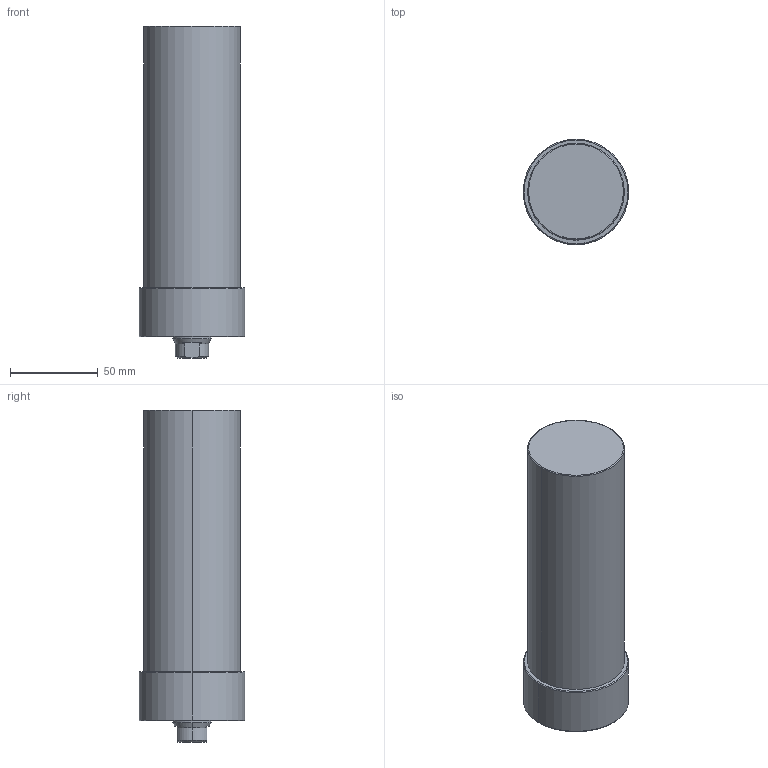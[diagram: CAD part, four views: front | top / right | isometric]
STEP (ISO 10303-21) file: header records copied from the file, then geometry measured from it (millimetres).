
FILE_DESCRIPTION (( 'STEP AP203' ), '1' );
FILE_NAME ('CLLU-055GA-120.STEP', '2020-01-06T07:08:40', ( '' ), ( '' ), 'SwSTEP 2.0', 'SolidWorks 2015', '' );
FILE_SCHEMA (( 'CONFIG_CONTROL_DESIGN' ));
Length unit declared in the file: millimetre
Products named in the file (1): CLLU-055GA-120
Bounding box: 60 x 60 x 189 mm (x, y, z)
Volume: 433499.6 mm3; surface area: 39068 mm2
Topology: 1 solids, 1 shells, 64 faces, 143 edges, 80 vertices
Faces by surface type: cone 25, cylinder 23, plane 10, torus 6
Entity records: 1805 total; most frequent: DIRECTION 330, CARTESIAN_POINT 318, ORIENTED_EDGE 266, AXIS2_PLACEMENT_3D 140, EDGE_CURVE 133, VERTEX_POINT 80, CIRCLE 75, EDGE_LOOP 73
